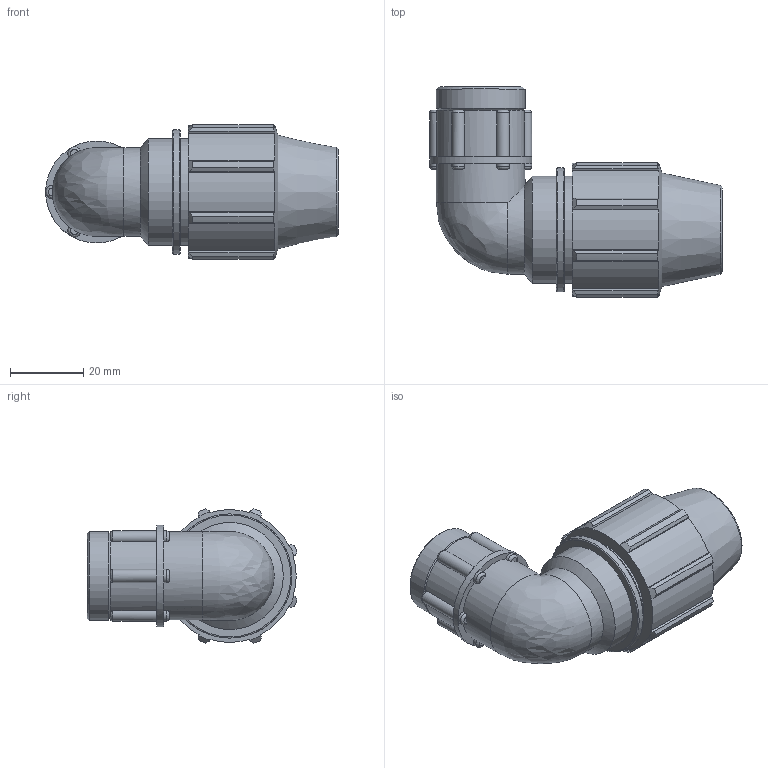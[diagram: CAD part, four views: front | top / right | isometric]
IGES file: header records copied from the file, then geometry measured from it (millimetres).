
Global section: file name: 071506016005__0715060160050A.ipt; native system: Autodesk Inventor 2015; preprocessor: unknown; author: KIM; date: 20170606.172333; units: millimetre
Bounding box: 79.93 x 57.35 x 36.7 mm (x, y, z)
Volume: 45321.7 mm3; surface area: 17078.8 mm2
Topology: 1 solids, 1 shells, 138 faces, 380 edges, 248 vertices
Faces by surface type: plane 60, cylinder 41, revolution 22, cone 13, bspline 2
Full cylindrical faces by diameter (mm): 24.22 x2, 27.853 x1, 29.25 x2, 33.93 x1
